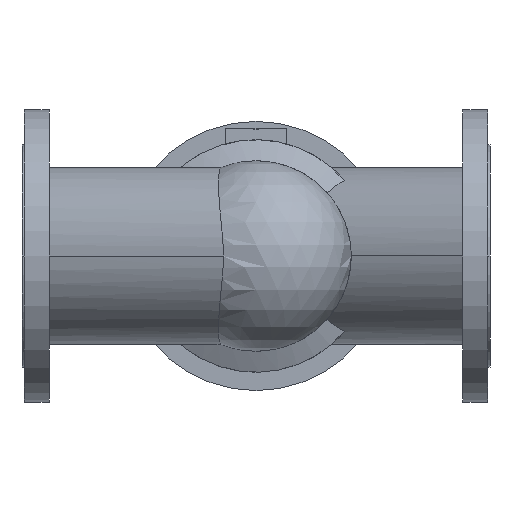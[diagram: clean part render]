
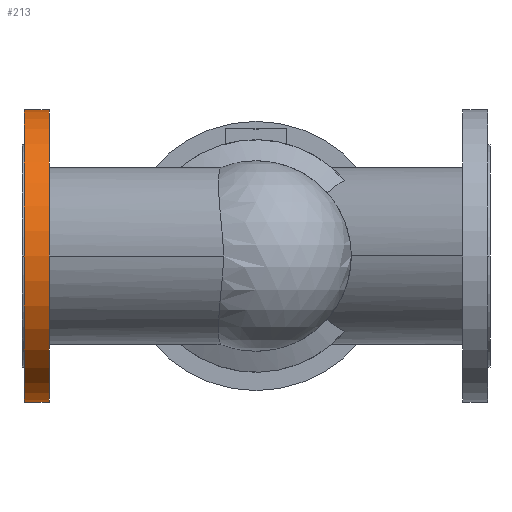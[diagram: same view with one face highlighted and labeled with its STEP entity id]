
A CAD part, front view. The second image highlights one B-rep face of the part: STEP entity #213.
In plain terms, the highlighted cylindrical face has radius 187.5 mm (diameter 375 mm), a partial arc.
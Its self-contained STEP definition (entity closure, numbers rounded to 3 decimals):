
#213 = ADVANCED_FACE( '', ( #569 ), #570, .T. );
#569 = FACE_OUTER_BOUND( '', #1106, .T. );
#570 = CYLINDRICAL_SURFACE( '', #1107, 187.5 );
#1106 = EDGE_LOOP( '', ( #2138, #2139, #2140, #2141 ) );
#1107 = AXIS2_PLACEMENT_3D( '', #2142, #2143, #2144 );
#2138 = ORIENTED_EDGE( '', *, *, #3402, .T. );
#2139 = ORIENTED_EDGE( '', *, *, #3583, .T. );
#2140 = ORIENTED_EDGE( '', *, *, #3405, .T. );
#2141 = ORIENTED_EDGE( '', *, *, #3554, .T. );
#2142 = CARTESIAN_POINT( '', ( 0., 0., 0. ) );
#2143 = DIRECTION( '', ( -1., 0., 0. ) );
#2144 = DIRECTION( '', ( 0., 0., -1. ) );
#3402 = EDGE_CURVE( '', #4077, #4078, #4079, .T. );
#3405 = EDGE_CURVE( '', #4084, #4082, #4085, .T. );
#3554 = EDGE_CURVE( '', #4082, #4077, #4350, .T. );
#3583 = EDGE_CURVE( '', #4078, #4084, #4380, .T. );
#4077 = VERTEX_POINT( '', #5403 );
#4078 = VERTEX_POINT( '', #5404 );
#4079 = LINE( '', #5405, #5406 );
#4082 = VERTEX_POINT( '', #5409 );
#4084 = VERTEX_POINT( '', #5411 );
#4085 = LINE( '', #5412, #5413 );
#4350 = CIRCLE( '', #5766, 187.5 );
#4380 = CIRCLE( '', #5796, 187.5 );
#5403 = CARTESIAN_POINT( '', ( 3., 0., -187.5 ) );
#5404 = CARTESIAN_POINT( '', ( 35., 0., -187.5 ) );
#5405 = CARTESIAN_POINT( '', ( 19., 0., -187.5 ) );
#5406 = VECTOR( '', #6937, 1. );
#5409 = CARTESIAN_POINT( '', ( 3., 0., 187.5 ) );
#5411 = CARTESIAN_POINT( '', ( 35., 0., 187.5 ) );
#5412 = CARTESIAN_POINT( '', ( 19., 0., 187.5 ) );
#5413 = VECTOR( '', #6944, 1. );
#5766 = AXIS2_PLACEMENT_3D( '', #7213, #7214, #7215 );
#5796 = AXIS2_PLACEMENT_3D( '', #7300, #7301, #7302 );
#6937 = DIRECTION( '', ( 1., 0., 0. ) );
#6944 = DIRECTION( '', ( -1., 0., 0. ) );
#7213 = CARTESIAN_POINT( '', ( 3., 0., 0. ) );
#7214 = DIRECTION( '', ( 1., 0., 0. ) );
#7215 = DIRECTION( '', ( 0., 0., -1. ) );
#7300 = CARTESIAN_POINT( '', ( 35., 0., 0. ) );
#7301 = DIRECTION( '', ( -1., 0., 0. ) );
#7302 = DIRECTION( '', ( 0., 0., -1. ) );
